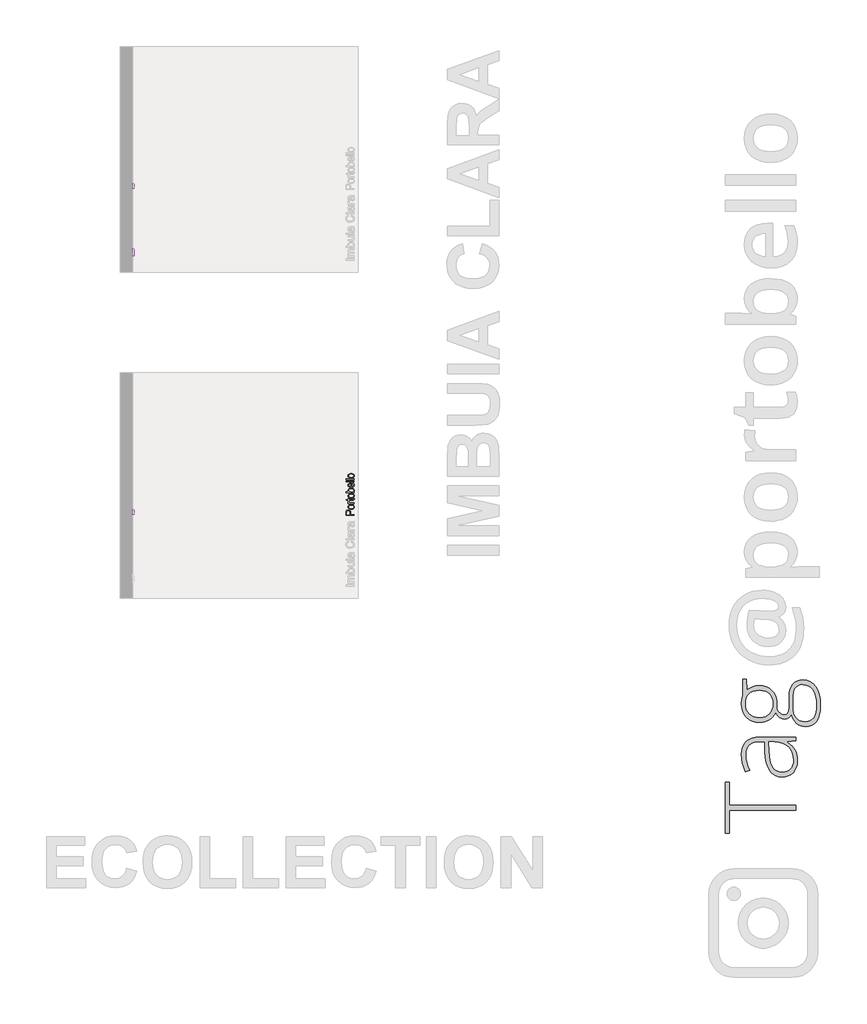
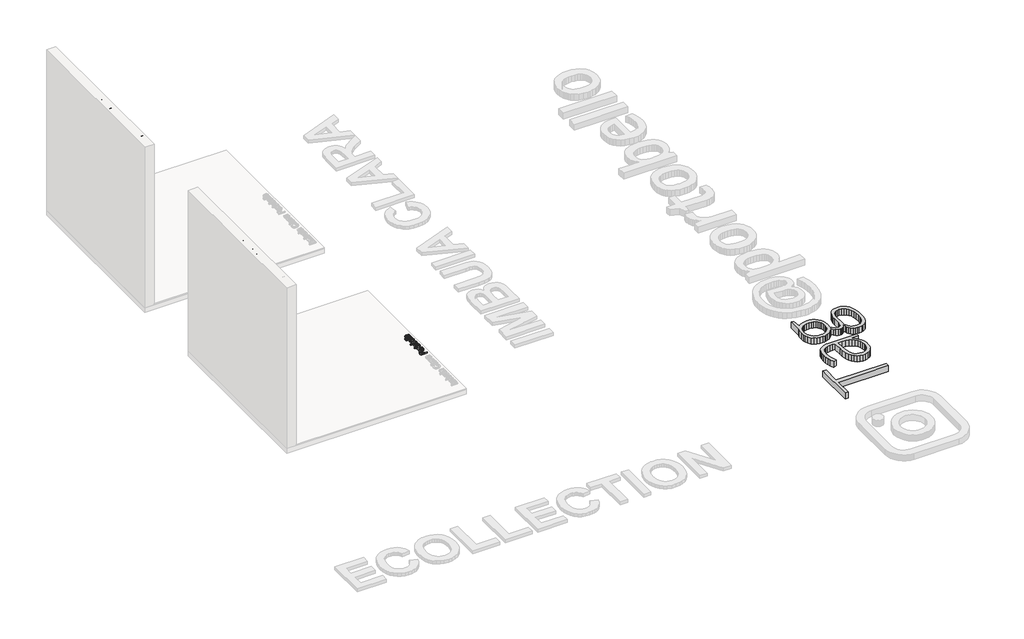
# One storey, part 2 of 10: 5 proxies.
"""IFC4 building model written with IfcOpenShell, lengths in millimetres."""

from ifc_helpers import new_model, si_unit, frame, origin, origin_with_axes, place, context, project, spatial, polyline, outline, extrude, element, save

model = new_model("IFC4")

# Units and contexts
model_context = context("Model", 3, world=origin())
ifc_project = project(units=[si_unit("LENGTHUNIT", "METRE", prefix="MILLI")], contexts=[model_context])

# Site, building, storey
site = spatial("IfcSite", under=ifc_project)
building = spatial("IfcBuilding", under=site)
storey = spatial("IfcBuildingStorey", under=building, Name="PORTOBELLO - SHOWROOM", Elevation=0.0)

# Proxies
placement = place(None, origin())
element("IfcBuildingElementProxy", 1, Name="10mm Arial", ObjectType="10mm Arial", at=placement, inside=storey, context=model_context, shape_type="SweptSolid", body=[
    extrude(outline(polyline([(151563.1527225, -5158.0727084), (151563.1527225, -5170.6297471), (151543.1527225, -5170.6297471), (151543.1527225, -5158.0727084), (151563.1527225, -5158.0727084)])), frame((0.0, 0.0, 2548.7267943), z_axis=(0.0, 0.0, 1.0), x_axis=(1.0, 0.0, 0.0)), (0.0, 0.0, 1.0), 100.4563101),
    extrude(outline(polyline([(-5134.5282607, 2548.7267943), (-5134.5282607, 2622.4993971), (-5121.9712219, 2622.4993971), (-5121.9712219, 2610.3592912), (-5113.3382578, 2620.3043678), (-5101.0509991, 2624.0690269), (-5088.4694349, 2620.2307914), (-5081.5532534, 2609.4763744), (-5071.7553296, 2620.4208638), (-5059.3822318, 2624.0690269), (-5049.9429929, 2622.5515137), (-5042.9624321, 2617.998974), (-5038.6490157, 2610.2887805), (-5037.2112102, 2599.2983059), (-5037.2112102, 2548.7267943), (-5049.768249, 2548.7267943), (-5049.768249, 2593.9027033), (-5050.9332087, 2604.3873402), (-5055.1515889, 2609.5499508), (-5062.3252878, 2611.5119881), (-5074.6738601, 2606.4842675), (-5078.3618771, 2599.9420994), (-5079.5912161, 2590.3710362), (-5079.5912161, 2548.7267943), (-5092.1482548, 2548.7267943), (-5092.1482548, 2595.3006549), (-5095.0545226, 2607.4652862), (-5104.5826663, 2611.5119881), (-5113.877818, 2608.8141868), (-5120.0582355, 2600.9169867), (-5121.9712219, 2585.9319267), (-5121.9712219, 2548.7267943), (-5134.5282607, 2548.7267943)])), frame((151543.1527225, 0.0, 0.0), z_axis=(1.0, 0.0, 0.0), x_axis=(0.0, 1.0, 0.0)), (0.0, 0.0, 1.0), 20.0),
    extrude(outline(polyline([(-5005.8186133, 2548.7267943), (-5018.3756521, 2548.7267943), (-5018.3756521, 2649.1831044), (-5005.8186133, 2649.1831044), (-5005.8186133, 2611.9289211), (-4997.0262336, 2621.0340004), (-4986.1001384, 2624.0690269), (-4973.5185741, 2621.3344374), (-4963.7574385, 2613.6457037), (-4957.760962, 2601.6895389), (-4955.5904582, 2586.7167417), (-4957.8376041, 2569.9535854), (-4964.5790416, 2557.4823858), (-4974.4720016, 2549.7384698), (-4986.1737148, 2547.1571645), (-4997.3389333, 2550.4864965), (-5005.8186133, 2560.4744927), (-5005.8186133, 2548.7267943)]), holes=[polyline([(-5005.8186133, 2586.1281305), (-5002.385048, 2568.5678966), (-4995.8060917, 2561.9276266), (-4987.2528353, 2559.7142032), (-4980.00556, 2561.3451467), (-4973.8128797, 2566.2379773), (-4969.5638427, 2574.362038), (-4968.147497, 2585.6866721), (-4969.5055947, 2597.1768531), (-4973.5798878, 2605.2089433), (-4979.57943, 2609.9362269), (-4986.713275, 2611.5119881), (-4993.9605503, 2609.8810446), (-5000.1532306, 2604.9882141), (-5004.4022676, 2597.0113062), (-5005.8186133, 2586.1281305)])]), frame((151543.1527225, 0.0, 0.0), z_axis=(1.0, 0.0, 0.0), x_axis=(0.0, 1.0, 0.0)), (0.0, 0.0, 1.0), 20.0),
    extrude(outline(polyline([(-4894.3748942, 2548.7267943), (-4894.3748942, 2561.4064604), (-4904.2096062, 2550.7194884), (-4917.0364251, 2547.1571645), (-4928.8454372, 2549.658762), (-4936.987892, 2555.9372814), (-4940.7280256, 2565.1833822), (-4941.4637896, 2576.8575042), (-4941.4637896, 2622.4993971), (-4928.9067509, 2622.4993971), (-4928.9067509, 2582.7681416), (-4928.1464614, 2569.9658482), (-4923.1800545, 2562.4487927), (-4913.823589, 2559.7142032), (-4903.3389522, 2562.5101064), (-4896.4105079, 2570.1252637), (-4894.3748942, 2584.1170422), (-4894.3748942, 2622.4993971), (-4881.8178555, 2622.4993971), (-4881.8178555, 2548.7267943), (-4894.3748942, 2548.7267943)])), frame((151543.1527225, 0.0, 0.0), z_axis=(1.0, 0.0, 0.0), x_axis=(0.0, 1.0, 0.0)), (0.0, 0.0, 1.0), 20.0),
    extrude(outline(polyline([(151563.1527225, -4851.9948884), (151563.1527225, -4864.5519272), (151543.1527225, -4864.5519272), (151543.1527225, -4851.9948884), (151563.1527225, -4851.9948884)])), frame((0.0, 0.0, 2636.6260657), z_axis=(0.0, 0.0, 1.0), x_axis=(1.0, 0.0, 0.0)), (0.0, 0.0, 1.0), 12.5570388),
    extrude(outline(polyline([(151563.1527225, -4851.9948884), (151563.1527225, -4864.5519272), (151543.1527225, -4864.5519272), (151543.1527225, -4851.9948884), (151563.1527225, -4851.9948884)])), frame((0.0, 0.0, 2548.7267943), z_axis=(0.0, 0.0, 1.0), x_axis=(1.0, 0.0, 0.0)), (0.0, 0.0, 1.0), 73.7726028),
    extrude(outline(polyline([(-4786.0704349, 2558.1445734), (-4798.2473289, 2549.6342366), (-4811.6995472, 2547.1571645), (-4822.1933811, 2548.6470865), (-4829.9342314, 2553.1168528), (-4834.7075003, 2559.9042756), (-4836.2985899, 2568.3471674), (-4833.8950942, 2578.2799812), (-4827.5797866, 2585.4904683), (-4818.787407, 2589.6107467), (-4807.9226254, 2591.4992076), (-4786.1440113, 2595.8156897), (-4786.0704349, 2598.6115928), (-4789.5285256, 2607.8822191), (-4803.4099396, 2611.5119881), (-4816.1141311, 2609.0962297), (-4822.1719213, 2600.5245792), (-4834.7289601, 2602.0942091), (-4829.2965693, 2614.3569422), (-4818.3582113, 2621.5429039), (-4801.7912588, 2624.0690269), (-4786.5732069, 2621.8372095), (-4777.977031, 2616.2331404), (-4774.1265327, 2607.7105409), (-4773.5133961, 2596.7231319), (-4773.5133961, 2581.1004099), (-4772.875734, 2559.2850076), (-4770.3741364, 2548.7267943), (-4782.9311752, 2548.7267943), (-4786.0704349, 2558.1445734)]), holes=[polyline([(-4786.0704349, 2583.2586509), (-4806.3284701, 2579.4081527), (-4817.131938, 2577.372539), (-4822.0247685, 2574.061601), (-4823.7415512, 2569.2300842), (-4820.0014175, 2562.43653), (-4809.0262714, 2559.7142032), (-4796.3220798, 2562.7185728), (-4788.130574, 2569.9903736), (-4786.1440113, 2579.7024583), (-4786.0704349, 2583.2586509)])]), frame((151543.1527225, 0.0, 0.0), z_axis=(1.0, 0.0, 0.0), x_axis=(0.0, 1.0, 0.0)), (0.0, 0.0, 1.0), 20.0),
    extrude(outline(polyline([(-4644.8037487, 2584.4358733), (-4632.2467099, 2581.1985117), (-4638.0408514, 2566.5660054), (-4647.133668, 2555.8759677), (-4659.0775701, 2549.3368653), (-4673.4249679, 2547.1571645), (-4687.9900293, 2548.8065021), (-4699.5568523, 2553.7545149), (-4708.4228084, 2561.8295247), (-4714.8852688, 2572.8598532), (-4720.1459813, 2599.7152388), (-4718.6591249, 2614.3630736), (-4714.1985557, 2627.0120829), (-4706.9972657, 2637.2606621), (-4697.2882467, 2644.7072068), (-4685.7735402, 2649.2413524), (-4673.1551878, 2650.7527343), (-4659.3872041, 2648.7968284), (-4648.0043221, 2642.9291105), (-4639.3621609, 2633.5113315), (-4633.8163398, 2620.9052418), (-4646.3733786, 2617.9131349), (-4656.6740744, 2633.3519159), (-4673.6456971, 2638.1956955), (-4693.2905957, 2632.8246184), (-4704.3883692, 2618.4036442), (-4707.5889426, 2599.7397643), (-4703.799758, 2578.108303), (-4692.0030087, 2564.2882027), (-4674.6757667, 2559.7142032), (-4664.1941955, 2561.2715703), (-4655.4600638, 2565.9436717), (-4648.8657791, 2573.6814563), (-4644.8037487, 2584.4358733)])), frame((151543.1527225, 0.0, 0.0), z_axis=(1.0, 0.0, 0.0), x_axis=(0.0, 1.0, 0.0)), (0.0, 0.0, 1.0), 20.0),
    extrude(outline(polyline([(151563.1527225, -4603.9933727), (151563.1527225, -4616.5504115), (151543.1527225, -4616.5504115), (151543.1527225, -4603.9933727), (151563.1527225, -4603.9933727)])), frame((0.0, 0.0, 2548.7267943), z_axis=(0.0, 0.0, 1.0), x_axis=(1.0, 0.0, 0.0)), (0.0, 0.0, 1.0), 100.4563101),
    extrude(outline(polyline([(-4538.0689192, 2558.1445734), (-4550.2458132, 2549.6342366), (-4563.6980315, 2547.1571645), (-4574.1918654, 2548.6470865), (-4581.9327157, 2553.1168528), (-4586.7059846, 2559.9042756), (-4588.2970742, 2568.3471674), (-4585.8935785, 2578.2799812), (-4579.578271, 2585.4904683), (-4570.7858913, 2589.6107467), (-4559.9211097, 2591.4992076), (-4538.1424956, 2595.8156897), (-4538.0689192, 2598.6115928), (-4541.5270099, 2607.8822191), (-4555.4084239, 2611.5119881), (-4568.1126154, 2609.0962297), (-4574.1704056, 2600.5245792), (-4586.7274444, 2602.0942091), (-4581.2950536, 2614.3569422), (-4570.3566956, 2621.5429039), (-4553.7897431, 2624.0690269), (-4538.5716912, 2621.8372095), (-4529.9755153, 2616.2331404), (-4526.1250171, 2607.7105409), (-4525.5118804, 2596.7231319), (-4525.5118804, 2581.1004099), (-4524.8742183, 2559.2850076), (-4522.3726207, 2548.7267943), (-4534.9296595, 2548.7267943), (-4538.0689192, 2558.1445734)]), holes=[polyline([(-4538.0689192, 2583.2586509), (-4558.3269544, 2579.4081527), (-4569.1304223, 2577.372539), (-4574.0232528, 2574.061601), (-4575.7400355, 2569.2300842), (-4571.9999019, 2562.43653), (-4561.0247557, 2559.7142032), (-4548.3205641, 2562.7185728), (-4540.1290583, 2569.9903736), (-4538.1424956, 2579.7024583), (-4538.0689192, 2583.2586509)])]), frame((151543.1527225, 0.0, 0.0), z_axis=(1.0, 0.0, 0.0), x_axis=(0.0, 1.0, 0.0)), (0.0, 0.0, 1.0), 20.0),
    extrude(outline(polyline([(-4508.2459521, 2548.7267943), (-4508.2459521, 2622.4993971), (-4497.2585432, 2622.4993971), (-4497.2585432, 2611.5855645), (-4489.4594449, 2621.6410057), (-4481.6112956, 2624.0690269), (-4469.0052059, 2620.1940032), (-4473.1990607, 2608.9368142), (-4482.0282286, 2611.5119881), (-4489.1283511, 2609.034916), (-4493.6532996, 2602.1677855), (-4495.6889133, 2587.5015566), (-4495.6889133, 2548.7267943), (-4508.2459521, 2548.7267943)])), frame((151543.1527225, 0.0, 0.0), z_axis=(1.0, 0.0, 0.0), x_axis=(0.0, 1.0, 0.0)), (0.0, 0.0, 1.0), 20.0),
    extrude(outline(polyline([(-4414.0681613, 2558.1445734), (-4426.2450554, 2549.6342366), (-4439.6972737, 2547.1571645), (-4450.1911076, 2548.6470865), (-4457.9319579, 2553.1168528), (-4462.7052268, 2559.9042756), (-4464.2963164, 2568.3471674), (-4461.8928207, 2578.2799812), (-4455.5775131, 2585.4904683), (-4446.7851334, 2589.6107467), (-4435.9203518, 2591.4992076), (-4414.1417377, 2595.8156897), (-4414.0681613, 2598.6115928), (-4417.5262521, 2607.8822191), (-4431.407666, 2611.5119881), (-4444.1118576, 2609.0962297), (-4450.1696478, 2600.5245792), (-4462.7266866, 2602.0942091), (-4457.2942958, 2614.3569422), (-4446.3559378, 2621.5429039), (-4429.7889853, 2624.0690269), (-4414.5709334, 2621.8372095), (-4405.9747574, 2616.2331404), (-4402.1242592, 2607.7105409), (-4401.5111226, 2596.7231319), (-4401.5111226, 2581.1004099), (-4400.8734604, 2559.2850076), (-4398.3718629, 2548.7267943), (-4410.9289016, 2548.7267943), (-4414.0681613, 2558.1445734)]), holes=[polyline([(-4414.0681613, 2583.2586509), (-4434.3261965, 2579.4081527), (-4445.1296645, 2577.372539), (-4450.022495, 2574.061601), (-4451.7392776, 2569.2300842), (-4447.999144, 2562.43653), (-4437.0239978, 2559.7142032), (-4424.3198063, 2562.7185728), (-4416.1283005, 2569.9903736), (-4414.1417377, 2579.7024583), (-4414.0681613, 2583.2586509)])]), frame((151543.1527225, 0.0, 0.0), z_axis=(1.0, 0.0, 0.0), x_axis=(0.0, 1.0, 0.0)), (0.0, 0.0, 1.0), 20.0),
])
element("IfcBuildingElementProxy", 2, Name="10mm Arial Narrow", ObjectType="10mm Arial Narrow", at=placement, inside=storey, context=model_context, shape_type="SweptSolid", body=[
    extrude(outline(polyline([(-8224.8854774, 2548.7267943), (-8224.8854774, 2649.4453981), (-8193.5885927, 2649.4453981), (-8177.2928912, 2647.5670773), (-8165.8199051, 2638.0866341), (-8161.5302266, 2621.0675253), (-8163.316535, 2608.9916998), (-8168.6754602, 2599.365306), (-8178.419249, 2593.0640476), (-8193.3601483, 2590.9636281), (-8215.1385157, 2590.9636281), (-8215.1385157, 2548.7267943), (-8224.8854774, 2548.7267943)]), holes=[polyline([(-8215.1385157, 2602.3350834), (-8192.1671608, 2602.3350834), (-8176.3029654, 2606.8658976), (-8171.2771883, 2620.5344884), (-8173.7520028, 2630.7002648), (-8179.7296316, 2636.5002146), (-8192.3956052, 2638.0739428), (-8215.1385157, 2638.0739428), (-8215.1385157, 2602.3350834)])]), frame((151543.1527225, 0.0, 0.0), z_axis=(1.0, 0.0, 0.0), x_axis=(0.0, 1.0, 0.0)), (0.0, 0.0, 1.0), 20.0),
    extrude(outline(polyline([(-8153.4077586, 2585.2779005), (-8151.4532897, 2601.868676), (-8145.5898831, 2613.8207609), (-8136.7313164, 2621.0453154), (-8125.7913672, 2623.4535003), (-8114.9783316, 2621.0453154), (-8106.0943822, 2613.8207609), (-8100.1548275, 2602.0590464), (-8098.1749759, 2586.0393819), (-8100.1199262, 2568.8774953), (-8105.9547773, 2556.7350401), (-8114.8038255, 2549.5104856), (-8125.7913672, 2547.1023007), (-8136.6519954, 2549.5168312), (-8145.5264263, 2556.7604228), (-8151.4374255, 2568.7188533), (-8153.4077586, 2585.2779005)]), holes=[polyline([(-8143.6607969, 2585.3032832), (-8142.3567601, 2572.7515318), (-8138.4446495, 2563.8802737), (-8132.6034527, 2558.6070152), (-8125.5121574, 2556.8492623), (-8118.7920842, 2558.6228794), (-8113.1000109, 2563.9437305), (-8109.2164559, 2572.8308528), (-8107.9219375, 2585.3032832), (-8109.2259744, 2597.8169605), (-8113.138085, 2606.6755273), (-8118.9792817, 2611.9487858), (-8126.0705771, 2613.7065387), (-8132.8382428, 2611.9392673), (-8138.5207976, 2606.6374532), (-8142.3757971, 2597.769368), (-8143.6607969, 2585.3032832)])]), frame((151543.1527225, 0.0, 0.0), z_axis=(1.0, 0.0, 0.0), x_axis=(0.0, 1.0, 0.0)), (0.0, 0.0, 1.0), 20.0),
    extrude(outline(polyline([(-8026.6972571, 2556.8492623), (-8025.0727635, 2547.1023007), (-8032.4337501, 2547.1023007), (-8040.7085145, 2549.2217572), (-8045.0235756, 2555.021707), (-8046.1911804, 2569.6675322), (-8046.1911804, 2612.082045), (-8054.3136484, 2612.082045), (-8054.3136484, 2615.3310323), (-8055.938142, 2610.4575514), (-8063.5021904, 2612.082045), (-8069.5813501, 2609.7595268), (-8073.4522138, 2603.2742438), (-8075.4320653, 2587.8669372), (-8075.4320653, 2548.7267943), (-8085.179027, 2548.7267943), (-8085.179027, 2621.8290067), (-8075.4320653, 2621.8290067), (-8075.4320653, 2612.1328105), (-8069.187918, 2621.2198216), (-8062.7914745, 2623.4535003), (-8054.3136484, 2621.8290067), (-8046.1911804, 2621.8290067), (-8046.1911804, 2638.0739428), (-8036.4442187, 2646.1964108), (-8036.4442187, 2621.8290067), (-8026.6972571, 2621.8290067), (-8026.6972571, 2612.082045), (-8036.4442187, 2612.082045), (-8036.4442187, 2567.4338535), (-8035.5812065, 2559.438299), (-8030.9615528, 2556.8492623), (-8026.6972571, 2556.8492623)])), frame((151543.1527225, 0.0, 0.0), z_axis=(1.0, 0.0, 0.0), x_axis=(0.0, 1.0, 0.0)), (0.0, 0.0, 1.0), 20.0),
    extrude(outline(polyline([(-8020.1992826, 2585.2779005), (-8018.2448138, 2601.868676), (-8012.3814071, 2613.8207609), (-8003.5228404, 2621.0453154), (-7992.5828913, 2623.4535003), (-7981.7698557, 2621.0453154), (-7972.8859063, 2613.8207609), (-7966.9463515, 2602.0590464), (-7964.9664999, 2586.0393819), (-7966.9114503, 2568.8774953), (-7972.7463014, 2556.7350401), (-7981.5953496, 2549.5104856), (-7992.5828913, 2547.1023007), (-8003.4435195, 2549.5168312), (-8012.3179504, 2556.7604228), (-8018.2289496, 2568.7188533), (-8020.1992826, 2585.2779005)]), holes=[polyline([(-8010.452321, 2585.3032832), (-8009.1482841, 2572.7515318), (-8005.2361735, 2563.8802737), (-7999.3949768, 2558.6070152), (-7992.3036815, 2556.8492623), (-7985.5836083, 2558.6228794), (-7979.891535, 2563.9437305), (-7976.0079799, 2572.8308528), (-7974.7134616, 2585.3032832), (-7976.0174985, 2597.8169605), (-7979.929609, 2606.6755273), (-7985.7708058, 2611.9487858), (-7992.8621011, 2613.7065387), (-7999.6297669, 2611.9392673), (-8005.3123217, 2606.6374532), (-8009.1673212, 2597.769368), (-8010.452321, 2585.3032832)])]), frame((151543.1527225, 0.0, 0.0), z_axis=(1.0, 0.0, 0.0), x_axis=(0.0, 1.0, 0.0)), (0.0, 0.0, 1.0), 20.0),
    extrude(outline(polyline([(-7942.2235894, 2548.7267943), (-7951.9705511, 2548.7267943), (-7951.9705511, 2649.4453981), (-7942.2235894, 2649.4453981), (-7942.2235894, 2614.0365139), (-7934.8245287, 2621.1182907), (-7925.6232953, 2623.4535003), (-7912.7415687, 2619.2526614), (-7903.4641872, 2606.523231), (-7899.9867556, 2585.8363202), (-7901.9190146, 2569.3819767), (-7907.7157916, 2557.1792376), (-7916.0889139, 2549.6215349), (-7925.7502089, 2547.1023007), (-7935.0910472, 2549.7167201), (-7942.2235894, 2557.4838302), (-7942.2235894, 2548.7267943)]), holes=[polyline([(-7942.2235894, 2585.8363202), (-7940.142207, 2568.5887669), (-7934.2534176, 2559.8571138), (-7925.8009743, 2556.8492623), (-7919.8582467, 2558.6387436), (-7914.6198894, 2564.0071873), (-7909.7337172, 2585.4301968), (-7914.4422104, 2606.8658976), (-7919.6869134, 2611.9963784), (-7926.004036, 2613.7065387), (-7931.9816649, 2611.9170574), (-7937.2739604, 2606.5486137), (-7942.2235894, 2585.8363202)])]), frame((151543.1527225, 0.0, 0.0), z_axis=(1.0, 0.0, 0.0), x_axis=(0.0, 1.0, 0.0)), (0.0, 0.0, 1.0), 20.0),
    extrude(outline(polyline([(-7848.0029601, 2571.4697048), (-7838.2559984, 2569.8452112), (-7841.9555288, 2559.9586446), (-7847.7745157, 2552.8387937), (-7855.478169, 2548.536424), (-7864.8316986, 2547.1023007), (-7876.4252526, 2549.5168312), (-7885.5693748, 2556.7604228), (-7891.5089296, 2568.5665571), (-7893.4887811, 2584.6687154), (-7891.499411, 2601.3356391), (-7885.5313007, 2613.5161683), (-7876.5172649, 2620.9691673), (-7865.3901183, 2623.4535003), (-7854.7071691, 2621.054834), (-7845.9596517, 2613.8588349), (-7840.1248007, 2602.1193303), (-7838.1798503, 2586.0901473), (-7838.2559984, 2582.8411601), (-7883.7418195, 2582.8411601), (-7877.738808, 2563.3980022), (-7871.8087717, 2558.4864473), (-7864.704785, 2556.8492623), (-7854.5263172, 2560.504373), (-7848.0029601, 2571.4697048)]), holes=[polyline([(-7883.081869, 2592.5881217), (-7848.0029601, 2592.5881217), (-7852.2672558, 2606.8532062), (-7858.0925884, 2611.9932056), (-7865.3139701, 2613.7065387), (-7877.5230549, 2607.9954283), (-7883.081869, 2592.5881217)])]), frame((151543.1527225, 0.0, 0.0), z_axis=(1.0, 0.0, 0.0), x_axis=(0.0, 1.0, 0.0)), (0.0, 0.0, 1.0), 20.0),
    extrude(outline(polyline([(151563.1527225, -7815.5130879), (151563.1527225, -7825.2600496), (151543.1527225, -7825.2600496), (151543.1527225, -7815.5130879), (151563.1527225, -7815.5130879)])), frame((0.0, 0.0, 2548.7267943), z_axis=(0.0, 0.0, 1.0), x_axis=(1.0, 0.0, 0.0)), (0.0, 0.0, 1.0), 100.7186038),
    extrude(outline(polyline([(151563.1527225, -7789.5211902), (151563.1527225, -7799.2681518), (151543.1527225, -7799.2681518), (151543.1527225, -7789.5211902), (151563.1527225, -7789.5211902)])), frame((0.0, 0.0, 2548.7267943), z_axis=(0.0, 0.0, 1.0), x_axis=(1.0, 0.0, 0.0)), (0.0, 0.0, 1.0), 100.7186038),
    extrude(outline(polyline([(-7778.1497349, 2585.2779005), (-7776.195266, 2601.868676), (-7770.3318594, 2613.8207609), (-7761.4732927, 2621.0453154), (-7750.5333436, 2623.4535003), (-7739.720308, 2621.0453154), (-7730.8363586, 2613.8207609), (-7724.8968038, 2602.0590464), (-7722.9169522, 2586.0393819), (-7724.8619026, 2568.8774953), (-7730.6967536, 2556.7350401), (-7739.5458018, 2549.5104856), (-7750.5333436, 2547.1023007), (-7761.3939717, 2549.5168312), (-7770.2684026, 2556.7604228), (-7776.1794018, 2568.7188533), (-7778.1497349, 2585.2779005)]), holes=[polyline([(-7768.4027733, 2585.3032832), (-7767.0987364, 2572.7515318), (-7763.1866258, 2563.8802737), (-7757.3454291, 2558.6070152), (-7750.2541337, 2556.8492623), (-7743.5340606, 2558.6228794), (-7737.8419872, 2563.9437305), (-7733.9584322, 2572.8308528), (-7732.6639139, 2585.3032832), (-7733.9679507, 2597.8169605), (-7737.8800613, 2606.6755273), (-7743.7212581, 2611.9487858), (-7750.8125534, 2613.7065387), (-7757.5802192, 2611.9392673), (-7763.262774, 2606.6374532), (-7767.1177734, 2597.769368), (-7768.4027733, 2585.3032832)])]), frame((151543.1527225, 0.0, 0.0), z_axis=(1.0, 0.0, 0.0), x_axis=(0.0, 1.0, 0.0)), (0.0, 0.0, 1.0), 20.0),
])
element("IfcBuildingElementProxy", 3, Name="10mm Arial Narrow", ObjectType="10mm Arial Narrow", at=placement, inside=storey, context=model_context, shape_type="SweptSolid", body=[
    extrude(outline(polyline([(154197.2239346, -8234.1828592), (154096.5053309, -8234.1828592), (154096.5053309, -8202.8859745), (154098.3836516, -8186.590273), (154107.8640948, -8175.1172869), (154124.8832036, -8170.8276084), (154136.9590291, -8172.6139168), (154146.5854229, -8177.972842), (154152.8866813, -8187.7166309), (154154.9871008, -8202.6575301), (154154.9871008, -8224.4358975), (154197.2239346, -8224.4358975), (154197.2239346, -8234.1828592)]), holes=[polyline([(154143.6156455, -8224.4358975), (154143.6156455, -8201.4645426), (154139.0848313, -8185.6003472), (154125.4162405, -8180.5745701), (154115.2504641, -8183.0493846), (154109.4505143, -8189.0270134), (154107.8767861, -8201.692987), (154107.8767861, -8224.4358975), (154143.6156455, -8224.4358975)])]), frame((0.0, 0.0, 17.0), z_axis=(0.0, 0.0, 1.0), x_axis=(1.0, 0.0, 0.0)), (0.0, 0.0, 1.0), 20.0),
    extrude(outline(polyline([(154160.6728284, -8162.7051404), (154144.0820529, -8160.7506715), (154132.129968, -8154.8872649), (154124.9054135, -8146.0286982), (154122.4972286, -8135.088749), (154124.9054135, -8124.2757135), (154132.129968, -8115.391764), (154143.8916825, -8109.4522093), (154159.911347, -8107.4723577), (154177.0732336, -8109.417308), (154189.2156888, -8115.2521591), (154196.4402434, -8124.1012073), (154198.8484282, -8135.088749), (154196.4338977, -8145.9493772), (154189.1903061, -8154.8238081), (154177.2318756, -8160.7348073), (154160.6728284, -8162.7051404)]), holes=[polyline([(154160.6474457, -8152.9581787), (154173.1991971, -8151.6541419), (154182.0704552, -8147.7420313), (154187.3437137, -8141.9008345), (154189.1014666, -8134.8095392), (154187.3278495, -8128.089466), (154182.0069984, -8122.3973927), (154173.1198761, -8118.5138377), (154160.6474457, -8117.2193193), (154148.1337684, -8118.5233562), (154139.2752016, -8122.4354668), (154134.0019431, -8128.2766635), (154132.2441902, -8135.3679589), (154134.0114616, -8142.1356246), (154139.3132757, -8147.8181794), (154148.1813609, -8151.6731789), (154160.6474457, -8152.9581787)])]), frame((0.0, 0.0, 17.0), z_axis=(0.0, 0.0, 1.0), x_axis=(1.0, 0.0, 0.0)), (0.0, 0.0, 1.0), 20.0),
    extrude(outline(polyline([(154189.1014666, -8035.9946389), (154198.8484282, -8034.3701453), (154198.8484282, -8041.731132), (154196.7289717, -8050.0058963), (154190.9290219, -8054.3209574), (154176.2831967, -8055.4885622), (154133.8686839, -8055.4885622), (154133.8686839, -8063.6110303), (154130.6196966, -8063.6110303), (154135.4931775, -8065.2355239), (154133.8686839, -8072.7995722), (154136.1912021, -8078.8787319), (154142.6764851, -8082.7495956), (154158.0837917, -8084.7294472), (154197.2239346, -8084.7294472), (154197.2239346, -8094.4764088), (154124.1217222, -8094.4764088), (154124.1217222, -8084.7294472), (154133.8179184, -8084.7294472), (154124.7309073, -8078.4852999), (154122.4972286, -8072.0888563), (154124.1217222, -8063.6110303), (154124.1217222, -8055.4885622), (154107.8767861, -8055.4885622), (154099.7543181, -8045.7416006), (154124.1217222, -8045.7416006), (154124.1217222, -8035.9946389), (154133.8686839, -8035.9946389), (154133.8686839, -8045.7416006), (154178.5168754, -8045.7416006), (154186.5124299, -8044.8785883), (154189.1014666, -8040.2589346), (154189.1014666, -8035.9946389)])), frame((0.0, 0.0, 17.0), z_axis=(0.0, 0.0, 1.0), x_axis=(1.0, 0.0, 0.0)), (0.0, 0.0, 1.0), 20.0),
    extrude(outline(polyline([(154160.6728284, -8029.4966645), (154144.0820529, -8027.5421956), (154132.129968, -8021.678789), (154124.9054135, -8012.8202223), (154122.4972286, -8001.8802731), (154124.9054135, -7991.0672375), (154132.129968, -7982.1832881), (154143.8916825, -7976.2437333), (154159.911347, -7974.2638818), (154177.0732336, -7976.2088321), (154189.2156888, -7982.0436832), (154196.4402434, -7990.8927314), (154198.8484282, -8001.8802731), (154196.4338977, -8012.7409013), (154189.1903061, -8021.6153322), (154177.2318756, -8027.5263314), (154160.6728284, -8029.4966645)]), holes=[polyline([(154160.6474457, -8019.7497028), (154173.1991971, -8018.4456659), (154182.0704552, -8014.5335554), (154187.3437137, -8008.6923586), (154189.1014666, -8001.6010633), (154187.3278495, -7994.8809901), (154182.0069984, -7989.1889168), (154173.1198761, -7985.3053618), (154160.6474457, -7984.0108434), (154148.1337684, -7985.3148803), (154139.2752016, -7989.2269909), (154134.0019431, -7995.0681876), (154132.2441902, -8002.159483), (154134.0114616, -8008.9271487), (154139.3132757, -8014.6097035), (154148.1813609, -8018.464703), (154160.6474457, -8019.7497028)])]), frame((0.0, 0.0, 17.0), z_axis=(0.0, 0.0, 1.0), x_axis=(1.0, 0.0, 0.0)), (0.0, 0.0, 1.0), 20.0),
    extrude(outline(polyline([(154197.2239346, -7951.5209712), (154197.2239346, -7961.2679329), (154096.5053309, -7961.2679329), (154096.5053309, -7951.5209712), (154131.914215, -7951.5209712), (154124.8324382, -7944.1219105), (154122.4972286, -7934.9206772), (154126.6980675, -7922.0389505), (154139.4274979, -7912.761569), (154160.1144087, -7909.2841374), (154176.5687522, -7911.2163964), (154188.7714913, -7917.0131734), (154196.329194, -7925.3862957), (154198.8484282, -7935.0475907), (154196.2340088, -7944.388429), (154188.4668987, -7951.5209712), (154197.2239346, -7951.5209712)]), holes=[polyline([(154160.1144087, -7951.5209712), (154177.361962, -7949.4395888), (154186.0936151, -7943.5507995), (154189.1014666, -7935.0983562), (154187.3119853, -7929.1556286), (154181.9435416, -7923.9172712), (154160.5205321, -7919.0310991), (154139.0848313, -7923.7395923), (154133.9543505, -7928.9842953), (154132.2441902, -7935.3014179), (154134.0336715, -7941.2790467), (154139.4021152, -7946.5713423), (154160.1144087, -7951.5209712)])]), frame((0.0, 0.0, 17.0), z_axis=(0.0, 0.0, 1.0), x_axis=(1.0, 0.0, 0.0)), (0.0, 0.0, 1.0), 20.0),
    extrude(outline(polyline([(154174.4810241, -7857.3003419), (154176.1055177, -7847.5533803), (154185.9920843, -7851.2529106), (154193.1119352, -7857.0718975), (154197.4143049, -7864.7755508), (154198.8484282, -7874.1290804), (154196.4338977, -7885.7226344), (154189.1903061, -7894.8667566), (154177.3841718, -7900.8063114), (154161.2820135, -7902.786163), (154144.6150898, -7900.7967929), (154132.4345606, -7894.8286826), (154124.9815616, -7885.8146467), (154122.4972286, -7874.6875001), (154124.8958949, -7864.0045509), (154132.091894, -7855.2570336), (154143.8313986, -7849.4221825), (154159.8605816, -7847.4772321), (154163.1095688, -7847.5533803), (154163.1095688, -7893.0392013), (154182.5527267, -7887.0361898), (154187.4642816, -7881.1061535), (154189.1014666, -7874.0021668), (154185.4463559, -7863.8236991), (154174.4810241, -7857.3003419)]), holes=[polyline([(154153.3626072, -7892.3792508), (154153.3626072, -7857.3003419), (154139.0975227, -7861.5646376), (154133.9575233, -7867.3899702), (154132.2441902, -7874.6113519), (154137.9553006, -7886.8204367), (154153.3626072, -7892.3792508)])]), frame((0.0, 0.0, 17.0), z_axis=(0.0, 0.0, 1.0), x_axis=(1.0, 0.0, 0.0)), (0.0, 0.0, 1.0), 20.0),
    extrude(outline(polyline([(154197.2239346, -7834.5574314), (154096.5053309, -7834.5574314), (154096.5053309, -7824.8104697), (154197.2239346, -7824.8104697), (154197.2239346, -7834.5574314)])), frame((0.0, 0.0, 17.0), z_axis=(0.0, 0.0, 1.0), x_axis=(1.0, 0.0, 0.0)), (0.0, 0.0, 1.0), 20.0),
    extrude(outline(polyline([(154197.2239346, -7808.5655337), (154096.5053309, -7808.5655337), (154096.5053309, -7798.818572), (154197.2239346, -7798.818572), (154197.2239346, -7808.5655337)])), frame((0.0, 0.0, 17.0), z_axis=(0.0, 0.0, 1.0), x_axis=(1.0, 0.0, 0.0)), (0.0, 0.0, 1.0), 20.0),
    extrude(outline(polyline([(154160.6728284, -7787.4471167), (154144.0820529, -7785.4926479), (154132.129968, -7779.6292412), (154124.9054135, -7770.7706745), (154122.4972286, -7759.8307254), (154124.9054135, -7749.0176898), (154132.129968, -7740.1337404), (154143.8916825, -7734.1941856), (154159.911347, -7732.214334), (154177.0732336, -7734.1592844), (154189.2156888, -7739.9941355), (154196.4402434, -7748.8431836), (154198.8484282, -7759.8307254), (154196.4338977, -7770.6913536), (154189.1903061, -7779.5657845), (154177.2318756, -7785.4767837), (154160.6728284, -7787.4471167)]), holes=[polyline([(154160.6474457, -7777.7001551), (154173.1991971, -7776.3961182), (154182.0704552, -7772.4840076), (154187.3437137, -7766.6428109), (154189.1014666, -7759.5515155), (154187.3278495, -7752.8314424), (154182.0069984, -7747.1393691), (154173.1198761, -7743.255814), (154160.6474457, -7741.9612957), (154148.1337684, -7743.2653325), (154139.2752016, -7747.1774431), (154134.0019431, -7753.0186399), (154132.2441902, -7760.1099352), (154134.0114616, -7766.877601), (154139.3132757, -7772.5601558), (154148.1813609, -7776.4151553), (154160.6474457, -7777.7001551)])]), frame((0.0, 0.0, 17.0), z_axis=(0.0, 0.0, 1.0), x_axis=(1.0, 0.0, 0.0)), (0.0, 0.0, 1.0), 20.0),
])
element("IfcBuildingElementProxy", 4, Name="10mm Arial Narrow", ObjectType="10mm Arial Narrow", at=placement, inside=storey, context=model_context, shape_type="SweptSolid", body=[
    extrude(outline(polyline([(-4324.8854774, 2548.7267943), (-4324.8854774, 2649.4453981), (-4293.5885927, 2649.4453981), (-4277.2928912, 2647.5670773), (-4265.8199051, 2638.0866341), (-4261.5302266, 2621.0675253), (-4263.316535, 2608.9916998), (-4268.6754602, 2599.365306), (-4278.419249, 2593.0640476), (-4293.3601483, 2590.9636281), (-4315.1385157, 2590.9636281), (-4315.1385157, 2548.7267943), (-4324.8854774, 2548.7267943)]), holes=[polyline([(-4315.1385157, 2602.3350834), (-4292.1671608, 2602.3350834), (-4276.3029654, 2606.8658976), (-4271.2771883, 2620.5344884), (-4273.7520028, 2630.7002648), (-4279.7296316, 2636.5002146), (-4292.3956052, 2638.0739428), (-4315.1385157, 2638.0739428), (-4315.1385157, 2602.3350834)])]), frame((151543.1527225, 0.0, 0.0), z_axis=(1.0, 0.0, 0.0), x_axis=(0.0, 1.0, 0.0)), (0.0, 0.0, 1.0), 20.0),
    extrude(outline(polyline([(-4253.4077586, 2585.2779005), (-4251.4532897, 2601.868676), (-4245.5898831, 2613.8207609), (-4236.7313164, 2621.0453154), (-4225.7913672, 2623.4535003), (-4214.9783316, 2621.0453154), (-4206.0943822, 2613.8207609), (-4200.1548275, 2602.0590464), (-4198.1749759, 2586.0393819), (-4200.1199262, 2568.8774953), (-4205.9547773, 2556.7350401), (-4214.8038255, 2549.5104856), (-4225.7913672, 2547.1023007), (-4236.6519954, 2549.5168312), (-4245.5264263, 2556.7604228), (-4251.4374255, 2568.7188533), (-4253.4077586, 2585.2779005)]), holes=[polyline([(-4243.6607969, 2585.3032832), (-4242.3567601, 2572.7515318), (-4238.4446495, 2563.8802737), (-4232.6034527, 2558.6070152), (-4225.5121574, 2556.8492623), (-4218.7920842, 2558.6228794), (-4213.1000109, 2563.9437305), (-4209.2164559, 2572.8308528), (-4207.9219375, 2585.3032832), (-4209.2259744, 2597.8169605), (-4213.138085, 2606.6755273), (-4218.9792817, 2611.9487858), (-4226.0705771, 2613.7065387), (-4232.8382428, 2611.9392673), (-4238.5207976, 2606.6374532), (-4242.3757971, 2597.769368), (-4243.6607969, 2585.3032832)])]), frame((151543.1527225, 0.0, 0.0), z_axis=(1.0, 0.0, 0.0), x_axis=(0.0, 1.0, 0.0)), (0.0, 0.0, 1.0), 20.0),
    extrude(outline(polyline([(-4126.6972571, 2556.8492623), (-4125.0727635, 2547.1023007), (-4132.4337501, 2547.1023007), (-4140.7085145, 2549.2217572), (-4145.0235756, 2555.021707), (-4146.1911804, 2569.6675322), (-4146.1911804, 2612.082045), (-4154.3136484, 2612.082045), (-4154.3136484, 2615.3310323), (-4155.938142, 2610.4575514), (-4163.5021904, 2612.082045), (-4169.5813501, 2609.7595268), (-4173.4522138, 2603.2742438), (-4175.4320653, 2587.8669372), (-4175.4320653, 2548.7267943), (-4185.179027, 2548.7267943), (-4185.179027, 2621.8290067), (-4175.4320653, 2621.8290067), (-4175.4320653, 2612.1328105), (-4169.187918, 2621.2198216), (-4162.7914745, 2623.4535003), (-4154.3136484, 2621.8290067), (-4146.1911804, 2621.8290067), (-4146.1911804, 2638.0739428), (-4136.4442187, 2646.1964108), (-4136.4442187, 2621.8290067), (-4126.6972571, 2621.8290067), (-4126.6972571, 2612.082045), (-4136.4442187, 2612.082045), (-4136.4442187, 2567.4338535), (-4135.5812065, 2559.438299), (-4130.9615528, 2556.8492623), (-4126.6972571, 2556.8492623)])), frame((151543.1527225, 0.0, 0.0), z_axis=(1.0, 0.0, 0.0), x_axis=(0.0, 1.0, 0.0)), (0.0, 0.0, 1.0), 20.0),
    extrude(outline(polyline([(-4120.1992826, 2585.2779005), (-4118.2448138, 2601.868676), (-4112.3814071, 2613.8207609), (-4103.5228404, 2621.0453154), (-4092.5828913, 2623.4535003), (-4081.7698557, 2621.0453154), (-4072.8859063, 2613.8207609), (-4066.9463515, 2602.0590464), (-4064.9664999, 2586.0393819), (-4066.9114503, 2568.8774953), (-4072.7463014, 2556.7350401), (-4081.5953496, 2549.5104856), (-4092.5828913, 2547.1023007), (-4103.4435195, 2549.5168312), (-4112.3179504, 2556.7604228), (-4118.2289496, 2568.7188533), (-4120.1992826, 2585.2779005)]), holes=[polyline([(-4110.452321, 2585.3032832), (-4109.1482841, 2572.7515318), (-4105.2361735, 2563.8802737), (-4099.3949768, 2558.6070152), (-4092.3036815, 2556.8492623), (-4085.5836083, 2558.6228794), (-4079.891535, 2563.9437305), (-4076.0079799, 2572.8308528), (-4074.7134616, 2585.3032832), (-4076.0174985, 2597.8169605), (-4079.929609, 2606.6755273), (-4085.7708058, 2611.9487858), (-4092.8621011, 2613.7065387), (-4099.6297669, 2611.9392673), (-4105.3123217, 2606.6374532), (-4109.1673212, 2597.769368), (-4110.452321, 2585.3032832)])]), frame((151543.1527225, 0.0, 0.0), z_axis=(1.0, 0.0, 0.0), x_axis=(0.0, 1.0, 0.0)), (0.0, 0.0, 1.0), 20.0),
    extrude(outline(polyline([(-4042.2235894, 2548.7267943), (-4051.9705511, 2548.7267943), (-4051.9705511, 2649.4453981), (-4042.2235894, 2649.4453981), (-4042.2235894, 2614.0365139), (-4034.8245287, 2621.1182907), (-4025.6232953, 2623.4535003), (-4012.7415687, 2619.2526614), (-4003.4641872, 2606.523231), (-3999.9867556, 2585.8363202), (-4001.9190146, 2569.3819767), (-4007.7157916, 2557.1792376), (-4016.0889139, 2549.6215349), (-4025.7502089, 2547.1023007), (-4035.0910472, 2549.7167201), (-4042.2235894, 2557.4838302), (-4042.2235894, 2548.7267943)]), holes=[polyline([(-4042.2235894, 2585.8363202), (-4040.142207, 2568.5887669), (-4034.2534176, 2559.8571138), (-4025.8009743, 2556.8492623), (-4019.8582467, 2558.6387436), (-4014.6198894, 2564.0071873), (-4009.7337172, 2585.4301968), (-4014.4422104, 2606.8658976), (-4019.6869134, 2611.9963784), (-4026.004036, 2613.7065387), (-4031.9816649, 2611.9170574), (-4037.2739604, 2606.5486137), (-4042.2235894, 2585.8363202)])]), frame((151543.1527225, 0.0, 0.0), z_axis=(1.0, 0.0, 0.0), x_axis=(0.0, 1.0, 0.0)), (0.0, 0.0, 1.0), 20.0),
    extrude(outline(polyline([(-3948.0029601, 2571.4697048), (-3938.2559984, 2569.8452112), (-3941.9555288, 2559.9586446), (-3947.7745157, 2552.8387937), (-3955.478169, 2548.536424), (-3964.8316986, 2547.1023007), (-3976.4252526, 2549.5168312), (-3985.5693748, 2556.7604228), (-3991.5089296, 2568.5665571), (-3993.4887811, 2584.6687154), (-3991.499411, 2601.3356391), (-3985.5313007, 2613.5161683), (-3976.5172649, 2620.9691673), (-3965.3901183, 2623.4535003), (-3954.7071691, 2621.054834), (-3945.9596517, 2613.8588349), (-3940.1248007, 2602.1193303), (-3938.1798503, 2586.0901473), (-3938.2559984, 2582.8411601), (-3983.7418195, 2582.8411601), (-3977.738808, 2563.3980022), (-3971.8087717, 2558.4864473), (-3964.704785, 2556.8492623), (-3954.5263172, 2560.504373), (-3948.0029601, 2571.4697048)]), holes=[polyline([(-3983.081869, 2592.5881217), (-3948.0029601, 2592.5881217), (-3952.2672558, 2606.8532062), (-3958.0925884, 2611.9932056), (-3965.3139701, 2613.7065387), (-3977.5230549, 2607.9954283), (-3983.081869, 2592.5881217)])]), frame((151543.1527225, 0.0, 0.0), z_axis=(1.0, 0.0, 0.0), x_axis=(0.0, 1.0, 0.0)), (0.0, 0.0, 1.0), 20.0),
    extrude(outline(polyline([(151563.1527225, -3915.5130879), (151563.1527225, -3925.2600496), (151543.1527225, -3925.2600496), (151543.1527225, -3915.5130879), (151563.1527225, -3915.5130879)])), frame((0.0, 0.0, 2548.7267943), z_axis=(0.0, 0.0, 1.0), x_axis=(1.0, 0.0, 0.0)), (0.0, 0.0, 1.0), 100.7186038),
    extrude(outline(polyline([(151563.1527225, -3889.5211902), (151563.1527225, -3899.2681518), (151543.1527225, -3899.2681518), (151543.1527225, -3889.5211902), (151563.1527225, -3889.5211902)])), frame((0.0, 0.0, 2548.7267943), z_axis=(0.0, 0.0, 1.0), x_axis=(1.0, 0.0, 0.0)), (0.0, 0.0, 1.0), 100.7186038),
    extrude(outline(polyline([(-3878.1497349, 2585.2779005), (-3876.195266, 2601.868676), (-3870.3318594, 2613.8207609), (-3861.4732927, 2621.0453154), (-3850.5333436, 2623.4535003), (-3839.720308, 2621.0453154), (-3830.8363586, 2613.8207609), (-3824.8968038, 2602.0590464), (-3822.9169522, 2586.0393819), (-3824.8619026, 2568.8774953), (-3830.6967536, 2556.7350401), (-3839.5458018, 2549.5104856), (-3850.5333436, 2547.1023007), (-3861.3939717, 2549.5168312), (-3870.2684026, 2556.7604228), (-3876.1794018, 2568.7188533), (-3878.1497349, 2585.2779005)]), holes=[polyline([(-3868.4027733, 2585.3032832), (-3867.0987364, 2572.7515318), (-3863.1866258, 2563.8802737), (-3857.3454291, 2558.6070152), (-3850.2541337, 2556.8492623), (-3843.5340606, 2558.6228794), (-3837.8419872, 2563.9437305), (-3833.9584322, 2572.8308528), (-3832.6639139, 2585.3032832), (-3833.9679507, 2597.8169605), (-3837.8800613, 2606.6755273), (-3843.7212581, 2611.9487858), (-3850.8125534, 2613.7065387), (-3857.5802192, 2611.9392673), (-3863.262774, 2606.6374532), (-3867.1177734, 2597.769368), (-3868.4027733, 2585.3032832)])]), frame((151543.1527225, 0.0, 0.0), z_axis=(1.0, 0.0, 0.0), x_axis=(0.0, 1.0, 0.0)), (0.0, 0.0, 1.0), 20.0),
])
element("IfcBuildingElementProxy", 5, Name="80mm OpenSans Light", ObjectType="80mm OpenSans Light", at=placement, inside=storey, context=model_context, shape_type="SweptSolid", body=[
    extrude(outline(polyline([(159484.5604477, -11702.2690359), (159484.5604477, -11762.0777576), (158686.4321446, -11762.0777576), (158686.4321446, -12035.9253514), (158637.5671465, -12035.9253514), (158637.5671465, -11428.6759473), (158686.4321446, -11428.6759473), (158686.4321446, -11702.2690359), (159484.5604477, -11702.2690359)])), origin_with_axes(), (0.0, 0.0, 1.0), 100.0),
    extrude(outline(polyline([(159484.5604477, -10929.3367474), (159383.2673787, -10943.8435438), (159383.2673787, -10948.4246373), (159413.1001599, -10972.6423976), (159438.2086884, -10997.194196), (159458.5929642, -11022.0800325), (159474.2529872, -11047.299907), (159485.8886467, -11073.8400273), (159494.1998321, -11102.6866009), (159499.1865434, -11133.8396279), (159500.8487805, -11167.2991082), (159497.7867648, -11211.6466391), (159488.6007178, -11250.7768134), (159473.2906394, -11284.6896311), (159451.8565297, -11313.3850923), (159425.0141845, -11336.2110273), (159393.4793997, -11352.5152666), (159357.2521754, -11362.2978101), (159316.3325114, -11365.558658), (159271.6270826, -11360.6991994), (159232.1867301, -11346.1208234), (159198.0114539, -11321.8235303), (159169.1012539, -11287.8073198), (159145.917421, -11244.597109), (159128.9212457, -11192.7178149), (159118.112728, -11132.1694375), (159113.491868, -11062.9519767), (159109.9287952, -10941.552997), (159067.1719219, -10941.552997), (159024.1605433, -10943.8594503), (158986.7482791, -10950.7788104), (158954.9351292, -10962.3110772), (158928.7210938, -10978.4562508), (158908.2334253, -10999.739248), (158893.5993763, -11026.6849859), (158884.818947, -11059.2934645), (158881.8921372, -11097.5646838), (158884.9461996, -11142.2462527), (158894.1083867, -11187.7231504), (158909.3786987, -11233.9953768), (158930.7571354, -11281.062932), (158880.8741164, -11302.6958739), (158859.9410638, -11250.4268687), (158844.9888834, -11198.4759951), (158836.0175751, -11146.8432529), (158833.0271391, -11095.5286422), (158836.455006, -11046.4170921), (158846.7386066, -11003.9385838), (158863.8779411, -10968.0931172), (158887.8730094, -10938.8806924), (158919.1214758, -10916.2217764), (158958.0210048, -10900.0368364), (159004.5715963, -10890.3258724), (159058.7732503, -10887.0888844), (159484.5604477, -10887.0888844), (159484.5604477, -10929.3367474)]), holes=[polyline([(159451.9837823, -11164.2450458), (159448.2059708, -11115.7936186), (159436.8725361, -11072.7504269), (159417.9834784, -11035.1154706), (159391.5387976, -11002.8887498), (159358.3815422, -10977.0564722), (159319.3547606, -10958.6048453), (159274.4584529, -10947.5338691), (159223.6926191, -10943.8435438), (159158.7937934, -10943.8435438), (159163.6293922, -11055.571326), (159168.8228889, -11118.0523523), (159177.7862438, -11170.862181), (159190.5194571, -11214.0008122), (159207.0225286, -11247.4682458), (159227.9635344, -11272.5211013), (159254.0105509, -11290.4159981), (159285.1635778, -11301.1529362), (159321.4226154, -11304.7319155), (159350.6270869, -11302.4334154), (159376.3957383, -11295.5379152), (159398.7285695, -11284.0454148), (159417.6255805, -11267.9559143), (159432.6572938, -11247.6829846), (159443.3942318, -11223.6401966), (159449.8363947, -11195.8275503), (159451.9837823, -11164.2450458)])]), origin_with_axes(), (0.0, 0.0, 1.0), 100.0),
    extrude(outline(polyline([(158849.3154718, -10192.289692), (158890.0363036, -10192.289692), (158898.1804699, -10322.8508589), (158932.2205403, -10299.9135779), (158967.9148944, -10283.5298057), (159005.2635323, -10273.6995424), (159044.266454, -10270.422788), (159089.3615939, -10274.1926462), (159129.9710796, -10285.502221), (159166.0949113, -10304.3515123), (159197.7330888, -10330.7405201), (159223.4540204, -10363.4921578), (159241.8261145, -10401.429339), (159252.8493709, -10444.5520636), (159256.5237897, -10492.8603317), (159252.9607169, -10552.6690533), (159272.3349252, -10582.7324799), (159294.8268221, -10604.7153665), (159319.6092658, -10618.1723289), (159345.8551144, -10622.657983), (159359.7415543, -10621.2343445), (159371.6237658, -10616.9634292), (159381.5017488, -10609.8452369), (159389.3755034, -10599.8797677), (159399.682964, -10569.370957), (159403.1187841, -10523.4009555), (159403.1187841, -10413.4547097), (159405.7274624, -10365.4089001), (159413.5534973, -10323.3280562), (159426.5968887, -10287.2121778), (159444.8576367, -10257.0612651), (159468.2243953, -10233.2888888), (159496.5858184, -10216.3086201), (159529.941906, -10206.1204589), (159568.2926581, -10202.7244051), (159615.5749521, -10207.7667894), (159657.1467856, -10222.8939421), (159693.0081588, -10248.1058634), (159723.1590715, -10283.4025531), (159747.0427938, -10328.0045892), (159764.1025954, -10381.1325494), (159774.3384763, -10442.7864338), (159777.7504366, -10512.9662423), (159774.8315801, -10568.9176196), (159766.0750106, -10618.1723289), (159751.4807282, -10660.7303701), (159731.0487327, -10696.5917432), (159705.3993806, -10725.0406525), (159675.1530284, -10745.3613019), (159640.3096761, -10757.5536916), (159600.8693235, -10761.6178215), (159569.0720803, -10759.1045826), (159540.1062074, -10751.5648661), (159513.9717048, -10738.9986719), (159490.6685725, -10721.4060001), (159470.5149421, -10699.5026464), (159453.828945, -10674.0044068), (159440.6105812, -10644.9112813), (159430.8598508, -10612.2232698), (159416.671186, -10637.8646686), (159397.5196698, -10657.7797004), (159374.2960704, -10670.5685866), (159347.891156, -10674.8315487), (159318.257207, -10669.7891645), (159290.4366074, -10654.6620117), (159264.4293574, -10629.4500905), (159240.235457, -10594.1534007), (159226.7307749, -10620.2322303), (159209.885712, -10643.2410909), (159189.7002685, -10663.1799826), (159166.1744442, -10680.0489053), (159140.0558481, -10693.4661012), (159112.0920894, -10703.0498126), (159082.283168, -10708.8000395), (159050.6290839, -10710.7167817), (159003.816034, -10706.9787366), (158961.8703959, -10695.7646013), (158924.7921698, -10677.0743758), (158892.5813556, -10650.90806), (158866.5263858, -10618.3791143), (158847.9156932, -10580.6009989), (158836.7492776, -10537.5737137), (158833.0271391, -10489.2972589), (158837.0992222, -10434.3877623), (158849.3154718, -10393.348799), (158849.3154718, -10192.289692)]), holes=[polyline([(159593.743178, -10700.791079), (159625.4171453, -10697.788713), (159652.867917, -10688.7816149), (159676.095493, -10673.7697848), (159695.0998734, -10652.7532227), (159709.8810581, -10625.7319286), (159720.4390472, -10592.7059024), (159726.7738407, -10553.6751442), (159728.8854385, -10508.639654), (159726.31255, -10450.719838), (159718.5938845, -10400.5226642), (159705.729442, -10358.0481326), (159687.7192226, -10323.296243), (159664.5632262, -10296.2669956), (159636.2614527, -10276.9603903), (159602.8139023, -10265.3764271), (159564.2205749, -10261.515106), (159536.7260602, -10263.9329054), (159513.287722, -10271.1863036), (159493.9055605, -10283.2753005), (159478.5795756, -10300.1998962), (159466.943916, -10322.5327274), (159458.6327306, -10350.8464308), (159453.6460194, -10385.1410063), (159451.9837823, -10425.416454), (159451.9837823, -10528.2365543), (159454.1987729, -10568.679021), (159460.8437445, -10603.7291588), (159471.9186973, -10633.3869678), (159487.4236312, -10657.6524478), (159507.3585462, -10676.525599), (159531.7234424, -10690.0064212), (159560.5183196, -10698.0949145), (159593.743178, -10700.791079)]), polyline([(159049.8655684, -10652.4350912), (159085.297464, -10649.6753005), (159116.5141173, -10641.3959282), (159143.5155282, -10627.5969745), (159166.3016968, -10608.2784393), (159184.3954257, -10584.3469973), (159197.3195178, -10556.7093234), (159205.0739731, -10525.3654175), (159207.6587915, -10490.3152797), (159205.0898797, -10453.4120259), (159197.3831441, -10421.0898656), (159184.5385849, -10393.348799), (159166.556202, -10370.1888259), (159143.7064071, -10351.9280779), (159116.2596121, -10338.8846864), (159084.2158169, -10331.0586516), (159047.5750216, -10328.4499733), (159008.6913992, -10331.1381845), (158975.0092268, -10339.2028179), (158946.5285044, -10352.6438737), (158923.249232, -10371.4613519), (158905.155503, -10395.0985222), (158892.2314109, -10422.9986546), (158884.4769556, -10455.1617491), (158881.8921372, -10491.5878057), (158884.6678345, -10527.011748), (158892.9949265, -10558.4590466), (158906.8734131, -10585.9297015), (158926.3032944, -10609.4237127), (158950.6801204, -10628.2411908), (158979.3994415, -10641.6822466), (159012.4612574, -10649.7468801), (159049.8655684, -10652.4350912)])]), origin_with_axes(), (0.0, 0.0, 1.0), 100.0),
])

save(model, "model.ifc")
